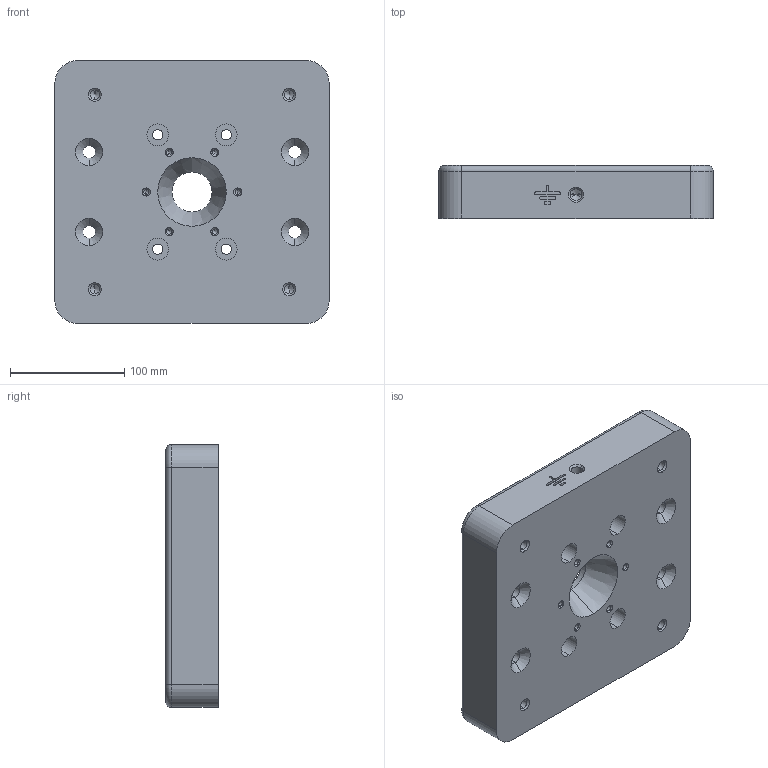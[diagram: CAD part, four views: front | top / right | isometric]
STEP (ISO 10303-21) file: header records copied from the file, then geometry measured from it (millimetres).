
FILE_DESCRIPTION (( 'STEP AP214' ), '1' );
FILE_NAME ('ÒÒÝÎ-3.23.00.00.001 Ïëèòà.STEP', '2020-12-22T18:54:41', ( '' ), ( '' ), 'SwSTEP 2.0', 'SolidWorks 2018', '' );
FILE_SCHEMA (( 'AUTOMOTIVE_DESIGN' ));
Length unit declared in the file: millimetre
Products named in the file (1): ÒÒÝÎ-3.23.00.00.001 Ïëèòà
Bounding box: 240 x 46 x 230 mm (x, y, z)
Volume: 2342090.9 mm3; surface area: 173221 mm2
Topology: 1 solids, 1 shells, 149 faces, 355 edges, 205 vertices
Faces by surface type: cylinder 68, cone 54, plane 23, torus 4
Entity records: 4463 total; most frequent: DIRECTION 805, CARTESIAN_POINT 688, ORIENTED_EDGE 666, EDGE_CURVE 333, AXIS2_PLACEMENT_3D 322, VERTEX_POINT 205, EDGE_LOOP 186, CIRCLE 172
